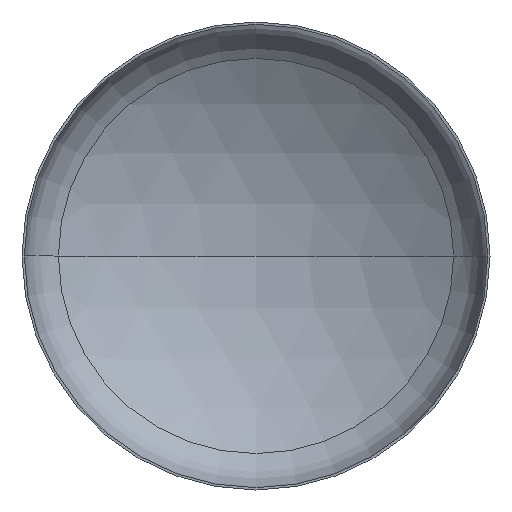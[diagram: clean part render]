
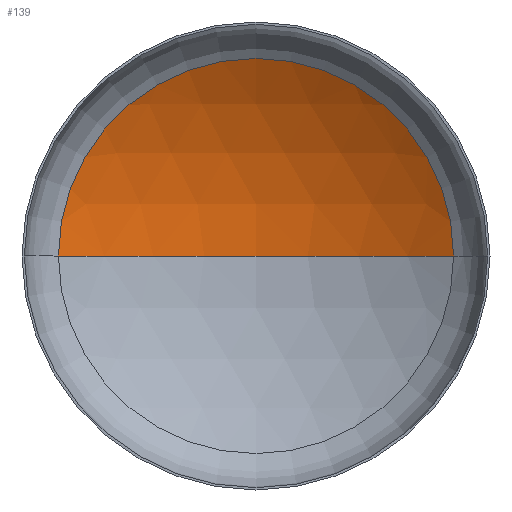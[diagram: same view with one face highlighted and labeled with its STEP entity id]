
A CAD part, front view. The second image highlights one B-rep face of the part: STEP entity #139.
In plain terms, the highlighted spherical face has radius 4800 mm.
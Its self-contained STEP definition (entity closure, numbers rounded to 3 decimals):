
#11 = ORIENTED_EDGE ( 'NONE', *, *, #122, .F. ) ;
#28 = AXIS2_PLACEMENT_3D ( 'NONE', #161, #96, #296 ) ;
#31 = AXIS2_PLACEMENT_3D ( 'NONE', #184, #179, #183 ) ;
#41 = AXIS2_PLACEMENT_3D ( 'NONE', #269, #268, #190 ) ;
#43 = EDGE_LOOP ( 'NONE', ( #11, #361, #227 ) ) ;
#48 = VERTEX_POINT ( 'NONE', #260 ) ;
#79 = VERTEX_POINT ( 'NONE', #212 ) ;
#88 = CIRCLE ( 'NONE', #41, 2533.161 ) ;
#96 = DIRECTION ( 'NONE',  ( 0., 0., 1. ) ) ;
#116 = EDGE_CURVE ( 'NONE', #167, #79, #88, .T. ) ;
#118 = EDGE_CURVE ( 'NONE', #48, #167, #376, .T. ) ;
#122 = EDGE_CURVE ( 'NONE', #48, #79, #241, .T. ) ;
#139 = ADVANCED_FACE ( 'NONE', ( #292 ), #160, .F. ) ;
#160 = SPHERICAL_SURFACE ( 'NONE', #355, 4800. ) ;
#161 = CARTESIAN_POINT ( 'NONE',  ( 0., -3201.443, 0. ) ) ;
#167 = VERTEX_POINT ( 'NONE', #210 ) ;
#170 = CARTESIAN_POINT ( 'NONE',  ( 0., -3201.443, 0. ) ) ;
#179 = DIRECTION ( 'NONE',  ( 0., 0., -1. ) ) ;
#183 = DIRECTION ( 'NONE',  ( -1., 0., 0. ) ) ;
#184 = CARTESIAN_POINT ( 'NONE',  ( 0., -3201.443, 0. ) ) ;
#190 = DIRECTION ( 'NONE',  ( 1., 0., 0. ) ) ;
#210 = CARTESIAN_POINT ( 'NONE',  ( 2533.161, 875.699, 0. ) ) ;
#212 = CARTESIAN_POINT ( 'NONE',  ( -2533.161, 875.699, 0. ) ) ;
#227 = ORIENTED_EDGE ( 'NONE', *, *, #116, .T. ) ;
#238 = DIRECTION ( 'NONE',  ( -1., 0., 0. ) ) ;
#239 = DIRECTION ( 'NONE',  ( 0., 0., -1. ) ) ;
#241 = CIRCLE ( 'NONE', #28, 4800. ) ;
#260 = CARTESIAN_POINT ( 'NONE',  ( 0., 1598.557, 0. ) ) ;
#268 = DIRECTION ( 'NONE',  ( 0., -1., 0. ) ) ;
#269 = CARTESIAN_POINT ( 'NONE',  ( 0., 875.699, 0. ) ) ;
#292 = FACE_OUTER_BOUND ( 'NONE', #43, .T. ) ;
#296 = DIRECTION ( 'NONE',  ( 1., 0., 0. ) ) ;
#355 = AXIS2_PLACEMENT_3D ( 'NONE', #170, #239, #238 ) ;
#361 = ORIENTED_EDGE ( 'NONE', *, *, #118, .T. ) ;
#376 = CIRCLE ( 'NONE', #31, 4800. ) ;
